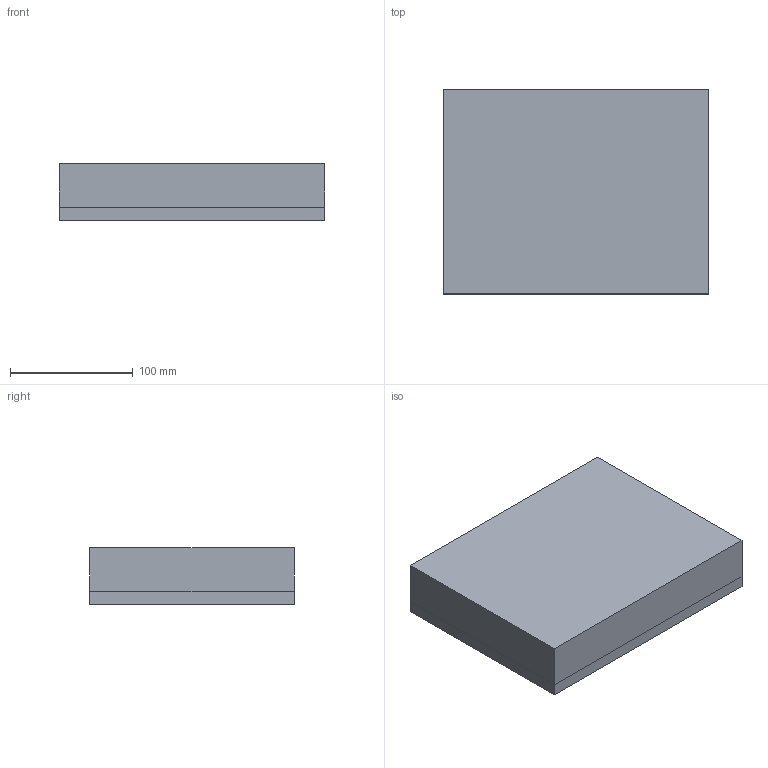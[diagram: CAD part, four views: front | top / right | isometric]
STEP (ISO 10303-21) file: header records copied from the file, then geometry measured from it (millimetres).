
FILE_DESCRIPTION(('CATIA V5 STEP Exchange'),'2;1');
FILE_NAME('C:\_Andres\UNIVERSIDAD\IQS\ASIGNATURAS\DAO\Controles\1920\c2\c2-Navarro_Pons_Oriol.stp','2020-02-10T15:38:26+00:00',('none'),('none'),'CATIA Version 5 Release 19 SP 3 (IN-10)','CATIA V5 STEP AP203','none');
FILE_SCHEMA(('CONFIG_CONTROL_DESIGN'));
Length unit declared in the file: millimetre
Products named in the file (1): c2-Navarro_Pons_Oriol
Bounding box: 216 x 166 x 46 mm (x, y, z)
Surface area: 268687.7 mm2
Topology: 3 solids, 3 shells, 103 faces, 232 edges, 128 vertices
Faces by surface type: cylinder 40, plane 27, bspline 24, sphere 12
Entity records: 3348 total; most frequent: CARTESIAN_POINT 1636, ORIENTED_EDGE 440, DIRECTION 224, EDGE_CURVE 164, EDGE_LOOP 110, ADVANCED_FACE 103, FACE_OUTER_BOUND 103, AXIS2_PLACEMENT_3D 96
